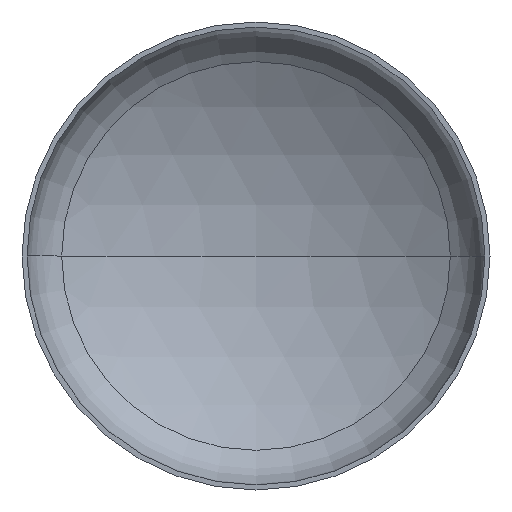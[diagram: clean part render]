
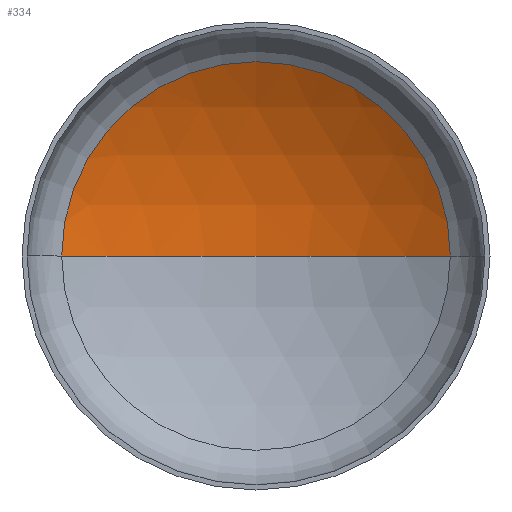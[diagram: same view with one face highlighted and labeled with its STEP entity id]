
A CAD part, front view. The second image highlights one B-rep face of the part: STEP entity #334.
In plain terms, the highlighted spherical face has radius 5200 mm.
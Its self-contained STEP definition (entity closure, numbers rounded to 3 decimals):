
#17 = VERTEX_POINT ( 'NONE', #268 ) ;
#46 = ORIENTED_EDGE ( 'NONE', *, *, #58, .T. ) ;
#51 = ORIENTED_EDGE ( 'NONE', *, *, #63, .T. ) ;
#55 = DIRECTION ( 'NONE',  ( -1., 0., 0. ) ) ;
#58 = EDGE_CURVE ( 'NONE', #131, #107, #250, .T. ) ;
#63 = EDGE_CURVE ( 'NONE', #17, #131, #106, .T. ) ;
#67 = EDGE_CURVE ( 'NONE', #17, #107, #318, .T. ) ;
#93 = ORIENTED_EDGE ( 'NONE', *, *, #67, .F. ) ;
#106 = CIRCLE ( 'NONE', #362, 5200. ) ;
#107 = VERTEX_POINT ( 'NONE', #176 ) ;
#108 = EDGE_LOOP ( 'NONE', ( #93, #51, #46 ) ) ;
#131 = VERTEX_POINT ( 'NONE', #281 ) ;
#170 = CARTESIAN_POINT ( 'NONE',  ( 0., -3469.93, 0. ) ) ;
#171 = DIRECTION ( 'NONE',  ( 0., 0., -1. ) ) ;
#176 = CARTESIAN_POINT ( 'NONE',  ( -2699.048, 974.745, 0. ) ) ;
#178 = DIRECTION ( 'NONE',  ( 1., 0., 0. ) ) ;
#183 = DIRECTION ( 'NONE',  ( 0., -1., 0. ) ) ;
#189 = CARTESIAN_POINT ( 'NONE',  ( 0., 974.745, 0. ) ) ;
#216 = DIRECTION ( 'NONE',  ( -1., 0., 0. ) ) ;
#243 = CARTESIAN_POINT ( 'NONE',  ( 0., -3469.93, 0. ) ) ;
#250 = CIRCLE ( 'NONE', #372, 2699.048 ) ;
#255 = DIRECTION ( 'NONE',  ( 0., 0., -1. ) ) ;
#268 = CARTESIAN_POINT ( 'NONE',  ( 0., 1730.07, 0. ) ) ;
#277 = SPHERICAL_SURFACE ( 'NONE', #321, 5200. ) ;
#278 = CARTESIAN_POINT ( 'NONE',  ( 0., -3469.93, 0. ) ) ;
#281 = CARTESIAN_POINT ( 'NONE',  ( 2699.048, 974.745, 0. ) ) ;
#318 = CIRCLE ( 'NONE', #407, 5200. ) ;
#321 = AXIS2_PLACEMENT_3D ( 'NONE', #243, #255, #216 ) ;
#334 = ADVANCED_FACE ( 'NONE', ( #405 ), #277, .F. ) ;
#355 = DIRECTION ( 'NONE',  ( 0., 0., 1. ) ) ;
#362 = AXIS2_PLACEMENT_3D ( 'NONE', #170, #171, #55 ) ;
#372 = AXIS2_PLACEMENT_3D ( 'NONE', #189, #183, #178 ) ;
#376 = DIRECTION ( 'NONE',  ( 1., 0., 0. ) ) ;
#405 = FACE_OUTER_BOUND ( 'NONE', #108, .T. ) ;
#407 = AXIS2_PLACEMENT_3D ( 'NONE', #278, #355, #376 ) ;
